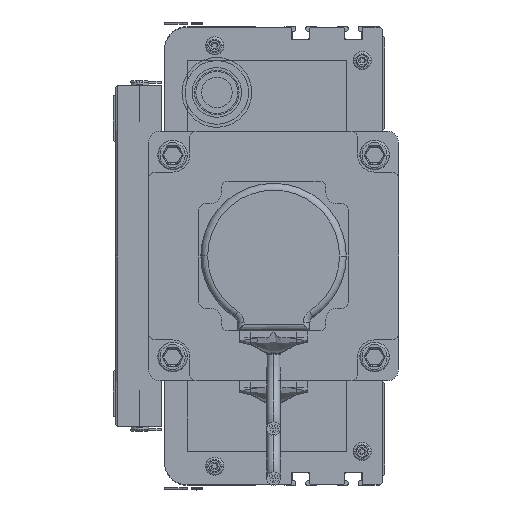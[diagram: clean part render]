
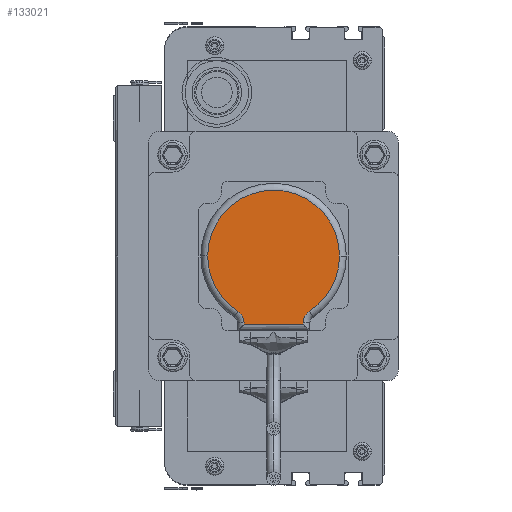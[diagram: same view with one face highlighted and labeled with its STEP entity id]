
A CAD part, left-side view. The second image highlights one B-rep face of the part: STEP entity #133021.
In plain terms, the highlighted planar face has unit normal (-1, 0, 0) as drawn and (0, 0, 1) by its records, which use the part's own axes.
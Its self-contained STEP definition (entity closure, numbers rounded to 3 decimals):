
#11094 = CARTESIAN_POINT ( 'NONE',  ( 4., 33., 25. ) ) ;
#11144 = CARTESIAN_POINT ( 'NONE',  ( 52., 62.394, 25. ) ) ;
#11150 = CARTESIAN_POINT ( 'NONE',  ( 46., 63., 25. ) ) ;
#11152 = LINE ( 'NONE', #11191, #11190 ) ;
#11178 = DIRECTION ( 'NONE',  ( 0., -1., 0. ) ) ;
#11179 = VECTOR ( 'NONE', #11178, 1000. ) ;
#11180 = CARTESIAN_POINT ( 'NONE',  ( 20., 33., 25. ) ) ;
#11181 = LINE ( 'NONE', #11180, #11179 ) ;
#11182 = DIRECTION ( 'NONE',  ( -1., 0., 0. ) ) ;
#11186 = VECTOR ( 'NONE', #11182, 1000. ) ;
#11187 = CARTESIAN_POINT ( 'NONE',  ( 17.5, 63., 25. ) ) ;
#11188 = LINE ( 'NONE', #11187, #11186 ) ;
#11189 = DIRECTION ( 'NONE',  ( 0., 1., 0. ) ) ;
#11190 = VECTOR ( 'NONE', #11189, 1000. ) ;
#11191 = CARTESIAN_POINT ( 'NONE',  ( 46., 33., 25. ) ) ;
#11192 = DIRECTION ( 'NONE',  ( 1., 0., 0. ) ) ;
#11193 = DIRECTION ( 'NONE',  ( 0., 0., 1. ) ) ;
#11194 = AXIS2_PLACEMENT_3D ( 'NONE', #11144, #11193, #11192 ) ;
#11195 = CIRCLE ( 'NONE', #11194, 6. ) ;
#11308 = CARTESIAN_POINT ( 'NONE',  ( 17.257, 57.355, 25. ) ) ;
#11332 = CARTESIAN_POINT ( 'NONE',  ( 20., 62.394, 25. ) ) ;
#11333 = CARTESIAN_POINT ( 'NONE',  ( 62., 33., 25. ) ) ;
#11341 = DIRECTION ( 'NONE',  ( 0., 0., 1. ) ) ;
#11342 = DIRECTION ( 'NONE',  ( 1., 0., 0. ) ) ;
#11343 = DIRECTION ( 'NONE',  ( 0., 0., 1. ) ) ;
#11344 = CARTESIAN_POINT ( 'NONE',  ( 33., 33., 25. ) ) ;
#11345 = AXIS2_PLACEMENT_3D ( 'NONE', #11344, #11343, #11342 ) ;
#11347 = CIRCLE ( 'NONE', #11345, 29. ) ;
#11354 = DIRECTION ( 'NONE',  ( 1., 0., 0. ) ) ;
#11355 = DIRECTION ( 'NONE',  ( 0., 0., 1. ) ) ;
#11356 = CARTESIAN_POINT ( 'NONE',  ( 33., 33., 25. ) ) ;
#11357 = AXIS2_PLACEMENT_3D ( 'NONE', #11356, #11355, #11354 ) ;
#11360 = CIRCLE ( 'NONE', #11357, 29. ) ;
#11380 = DIRECTION ( 'NONE',  ( 1., 0., 0. ) ) ;
#11386 = CARTESIAN_POINT ( 'NONE',  ( 14., 62.394, 25. ) ) ;
#11388 = CIRCLE ( 'NONE', #11390, 6. ) ;
#11390 = AXIS2_PLACEMENT_3D ( 'NONE', #11386, #11341, #11380 ) ;
#11413 = CARTESIAN_POINT ( 'NONE',  ( 48.743, 57.355, 25. ) ) ;
#11423 = CARTESIAN_POINT ( 'NONE',  ( 20., 63., 25. ) ) ;
#11646 = DIRECTION ( 'NONE',  ( 0., 0., 1. ) ) ;
#11647 = CARTESIAN_POINT ( 'NONE',  ( 33., 33., 25. ) ) ;
#11648 = AXIS2_PLACEMENT_3D ( 'NONE', #11647, #11646, #11707 ) ;
#11651 = DIRECTION ( 'NONE',  ( 1., 0., 0. ) ) ;
#11652 = CIRCLE ( 'NONE', #11648, 29. ) ;
#11654 = PLANE ( 'NONE',  #11660 ) ;
#11657 = DIRECTION ( 'NONE',  ( 0., 0., 1. ) ) ;
#11658 = CARTESIAN_POINT ( 'NONE',  ( 33., 33., 25. ) ) ;
#11660 = AXIS2_PLACEMENT_3D ( 'NONE', #11658, #11657, #11651 ) ;
#11665 = CARTESIAN_POINT ( 'NONE',  ( 46., 62.394, 25. ) ) ;
#11666 = FACE_OUTER_BOUND ( 'NONE', #132926, .T. ) ;
#11707 = DIRECTION ( 'NONE',  ( 1., 0., 0. ) ) ;
#132765 = VERTEX_POINT ( 'NONE', #11094 ) ;
#132784 = VERTEX_POINT ( 'NONE', #11150 ) ;
#132785 = EDGE_CURVE ( 'NONE', #133019, #132929, #11195, .T. ) ;
#132786 = ORIENTED_EDGE ( 'NONE', *, *, #132795, .T. ) ;
#132787 = ORIENTED_EDGE ( 'NONE', *, *, #132785, .F. ) ;
#132789 = EDGE_CURVE ( 'NONE', #133019, #132784, #11152, .T. ) ;
#132792 = ORIENTED_EDGE ( 'NONE', *, *, #132789, .T. ) ;
#132793 = EDGE_CURVE ( 'NONE', #132784, #132928, #11188, .T. ) ;
#132794 = ORIENTED_EDGE ( 'NONE', *, *, #132793, .T. ) ;
#132795 = EDGE_CURVE ( 'NONE', #132928, #132913, #11181, .T. ) ;
#132899 = EDGE_CURVE ( 'NONE', #132902, #132765, #11360, .T. ) ;
#132902 = VERTEX_POINT ( 'NONE', #11308 ) ;
#132909 = EDGE_CURVE ( 'NONE', #132765, #132912, #11347, .T. ) ;
#132912 = VERTEX_POINT ( 'NONE', #11333 ) ;
#132913 = VERTEX_POINT ( 'NONE', #11332 ) ;
#132916 = EDGE_CURVE ( 'NONE', #132902, #132913, #11388, .T. ) ;
#132926 = EDGE_LOOP ( 'NONE', ( #132927, #133002, #133023, #133020, #132787, #132792, #132794, #132786 ) ) ;
#132927 = ORIENTED_EDGE ( 'NONE', *, *, #132916, .F. ) ;
#132928 = VERTEX_POINT ( 'NONE', #11423 ) ;
#132929 = VERTEX_POINT ( 'NONE', #11413 ) ;
#133002 = ORIENTED_EDGE ( 'NONE', *, *, #132899, .T. ) ;
#133019 = VERTEX_POINT ( 'NONE', #11665 ) ;
#133020 = ORIENTED_EDGE ( 'NONE', *, *, #133022, .T. ) ;
#133021 = ADVANCED_FACE ( 'NONE', ( #11666 ), #11654, .T. ) ;
#133022 = EDGE_CURVE ( 'NONE', #132912, #132929, #11652, .T. ) ;
#133023 = ORIENTED_EDGE ( 'NONE', *, *, #132909, .T. ) ;
